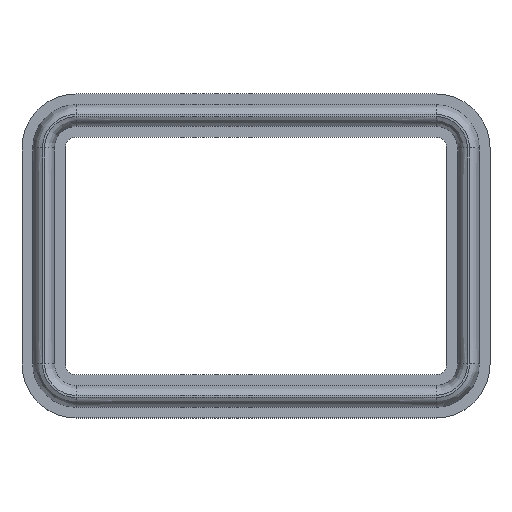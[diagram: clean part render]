
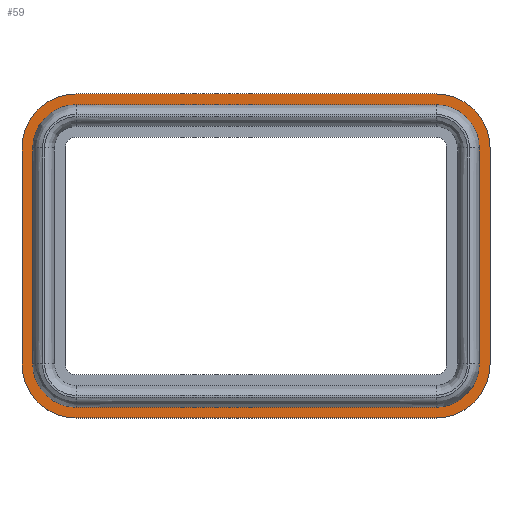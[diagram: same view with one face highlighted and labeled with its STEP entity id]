
A CAD part, top view. The second image highlights one B-rep face of the part: STEP entity #59.
In plain terms, the highlighted planar face has unit normal (0, 0, 1).
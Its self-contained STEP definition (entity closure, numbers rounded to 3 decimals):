
#21 = EDGE_CURVE('',#22,#24,#26,.T.);
#22 = VERTEX_POINT('',#23);
#23 = CARTESIAN_POINT('',(-13.,-6.,0.8));
#24 = VERTEX_POINT('',#25);
#25 = CARTESIAN_POINT('',(-10.,-9.,0.8));
#26 = CIRCLE('',#27,3.);
#27 = AXIS2_PLACEMENT_3D('',#28,#29,#30);
#28 = CARTESIAN_POINT('',(-10.,-6.,0.8));
#29 = DIRECTION('',(0.,0.,1.));
#30 = DIRECTION('',(1.,0.,-0.));
#59 = ADVANCED_FACE('',(#60,#120),#234,.T.);
#60 = FACE_BOUND('',#61,.T.);
#61 = EDGE_LOOP('',(#62,#63,#71,#80,#88,#97,#105,#114));
#62 = ORIENTED_EDGE('',*,*,#21,.T.);
#63 = ORIENTED_EDGE('',*,*,#64,.T.);
#64 = EDGE_CURVE('',#24,#65,#67,.T.);
#65 = VERTEX_POINT('',#66);
#66 = CARTESIAN_POINT('',(10.,-9.,0.8));
#67 = LINE('',#68,#69);
#68 = CARTESIAN_POINT('',(-10.,-9.,0.8));
#69 = VECTOR('',#70,1.);
#70 = DIRECTION('',(1.,0.,-0.));
#71 = ORIENTED_EDGE('',*,*,#72,.T.);
#72 = EDGE_CURVE('',#65,#73,#75,.T.);
#73 = VERTEX_POINT('',#74);
#74 = CARTESIAN_POINT('',(13.,-6.,0.8));
#75 = CIRCLE('',#76,3.);
#76 = AXIS2_PLACEMENT_3D('',#77,#78,#79);
#77 = CARTESIAN_POINT('',(10.,-6.,0.8));
#78 = DIRECTION('',(0.,0.,1.));
#79 = DIRECTION('',(1.,0.,-0.));
#80 = ORIENTED_EDGE('',*,*,#81,.T.);
#81 = EDGE_CURVE('',#73,#82,#84,.T.);
#82 = VERTEX_POINT('',#83);
#83 = CARTESIAN_POINT('',(13.,6.,0.8));
#84 = LINE('',#85,#86);
#85 = CARTESIAN_POINT('',(13.,-6.,0.8));
#86 = VECTOR('',#87,1.);
#87 = DIRECTION('',(-0.,1.,0.));
#88 = ORIENTED_EDGE('',*,*,#89,.T.);
#89 = EDGE_CURVE('',#82,#90,#92,.T.);
#90 = VERTEX_POINT('',#91);
#91 = CARTESIAN_POINT('',(10.,9.,0.8));
#92 = CIRCLE('',#93,3.);
#93 = AXIS2_PLACEMENT_3D('',#94,#95,#96);
#94 = CARTESIAN_POINT('',(10.,6.,0.8));
#95 = DIRECTION('',(0.,0.,1.));
#96 = DIRECTION('',(1.,0.,-0.));
#97 = ORIENTED_EDGE('',*,*,#98,.F.);
#98 = EDGE_CURVE('',#99,#90,#101,.T.);
#99 = VERTEX_POINT('',#100);
#100 = CARTESIAN_POINT('',(-10.,9.,0.8));
#101 = LINE('',#102,#103);
#102 = CARTESIAN_POINT('',(-10.,9.,0.8));
#103 = VECTOR('',#104,1.);
#104 = DIRECTION('',(1.,0.,-0.));
#105 = ORIENTED_EDGE('',*,*,#106,.T.);
#106 = EDGE_CURVE('',#99,#107,#109,.T.);
#107 = VERTEX_POINT('',#108);
#108 = CARTESIAN_POINT('',(-13.,6.,0.8));
#109 = CIRCLE('',#110,3.);
#110 = AXIS2_PLACEMENT_3D('',#111,#112,#113);
#111 = CARTESIAN_POINT('',(-10.,6.,0.8));
#112 = DIRECTION('',(0.,0.,1.));
#113 = DIRECTION('',(1.,0.,-0.));
#114 = ORIENTED_EDGE('',*,*,#115,.F.);
#115 = EDGE_CURVE('',#22,#107,#116,.T.);
#116 = LINE('',#117,#118);
#117 = CARTESIAN_POINT('',(-13.,-6.,0.8));
#118 = VECTOR('',#119,1.);
#119 = DIRECTION('',(-0.,1.,0.));
#120 = FACE_BOUND('',#121,.T.);
#121 = EDGE_LOOP('',(#122,#138,#152,#166,#180,#194,#208,#222));
#122 = ORIENTED_EDGE('',*,*,#123,.F.);
#123 = EDGE_CURVE('',#124,#126,#128,.T.);
#124 = VERTEX_POINT('',#125);
#125 = CARTESIAN_POINT('',(10.,-8.4,0.8));
#126 = VERTEX_POINT('',#127);
#127 = CARTESIAN_POINT('',(12.4,-6.,0.8));
#128 = B_SPLINE_CURVE_WITH_KNOTS('',8,(#129,#130,#131,#132,#133,#134,
    #135,#136,#137),.UNSPECIFIED.,.F.,.F.,(9,9),(0.,1.),
  .PIECEWISE_BEZIER_KNOTS.);
#129 = CARTESIAN_POINT('',(10.,-8.4,0.8));
#130 = CARTESIAN_POINT('',(10.471,-8.4,0.8));
#131 = CARTESIAN_POINT('',(10.942,-8.294,0.8));
#132 = CARTESIAN_POINT('',(11.386,-8.083,0.8));
#133 = CARTESIAN_POINT('',(11.774,-7.774,0.8));
#134 = CARTESIAN_POINT('',(12.083,-7.386,0.8));
#135 = CARTESIAN_POINT('',(12.294,-6.942,0.8));
#136 = CARTESIAN_POINT('',(12.4,-6.471,0.8));
#137 = CARTESIAN_POINT('',(12.4,-6.,0.8));
#138 = ORIENTED_EDGE('',*,*,#139,.F.);
#139 = EDGE_CURVE('',#140,#124,#142,.T.);
#140 = VERTEX_POINT('',#141);
#141 = CARTESIAN_POINT('',(-10.,-8.4,0.8));
#142 = B_SPLINE_CURVE_WITH_KNOTS('',8,(#143,#144,#145,#146,#147,#148,
    #149,#150,#151),.UNSPECIFIED.,.F.,.F.,(9,9),(7.,8.),
  .PIECEWISE_BEZIER_KNOTS.);
#143 = CARTESIAN_POINT('',(-10.,-8.4,0.8));
#144 = CARTESIAN_POINT('',(-7.5,-8.4,0.8));
#145 = CARTESIAN_POINT('',(-5.,-8.4,0.8));
#146 = CARTESIAN_POINT('',(-2.5,-8.4,0.8));
#147 = CARTESIAN_POINT('',(0.,-8.4,0.8));
#148 = CARTESIAN_POINT('',(2.5,-8.4,0.8));
#149 = CARTESIAN_POINT('',(5.,-8.4,0.8));
#150 = CARTESIAN_POINT('',(7.5,-8.4,0.8));
#151 = CARTESIAN_POINT('',(10.,-8.4,0.8));
#152 = ORIENTED_EDGE('',*,*,#153,.F.);
#153 = EDGE_CURVE('',#154,#140,#156,.T.);
#154 = VERTEX_POINT('',#155);
#155 = CARTESIAN_POINT('',(-12.4,-6.,0.8));
#156 = B_SPLINE_CURVE_WITH_KNOTS('',8,(#157,#158,#159,#160,#161,#162,
    #163,#164,#165),.UNSPECIFIED.,.F.,.F.,(9,9),(6.,7.),
  .PIECEWISE_BEZIER_KNOTS.);
#157 = CARTESIAN_POINT('',(-12.4,-6.,0.8));
#158 = CARTESIAN_POINT('',(-12.4,-6.471,0.8));
#159 = CARTESIAN_POINT('',(-12.294,-6.942,0.8));
#160 = CARTESIAN_POINT('',(-12.083,-7.386,0.8));
#161 = CARTESIAN_POINT('',(-11.774,-7.774,0.8));
#162 = CARTESIAN_POINT('',(-11.386,-8.083,0.8));
#163 = CARTESIAN_POINT('',(-10.942,-8.294,0.8));
#164 = CARTESIAN_POINT('',(-10.471,-8.4,0.8));
#165 = CARTESIAN_POINT('',(-10.,-8.4,0.8));
#166 = ORIENTED_EDGE('',*,*,#167,.F.);
#167 = EDGE_CURVE('',#168,#154,#170,.T.);
#168 = VERTEX_POINT('',#169);
#169 = CARTESIAN_POINT('',(-12.4,6.,0.8));
#170 = B_SPLINE_CURVE_WITH_KNOTS('',8,(#171,#172,#173,#174,#175,#176,
    #177,#178,#179),.UNSPECIFIED.,.F.,.F.,(9,9),(5.,6.),
  .PIECEWISE_BEZIER_KNOTS.);
#171 = CARTESIAN_POINT('',(-12.4,6.,0.8));
#172 = CARTESIAN_POINT('',(-12.4,4.5,0.8));
#173 = CARTESIAN_POINT('',(-12.4,3.,0.8));
#174 = CARTESIAN_POINT('',(-12.4,1.5,0.8));
#175 = CARTESIAN_POINT('',(-12.4,0.,0.8));
#176 = CARTESIAN_POINT('',(-12.4,-1.5,0.8));
#177 = CARTESIAN_POINT('',(-12.4,-3.,0.8));
#178 = CARTESIAN_POINT('',(-12.4,-4.5,0.8));
#179 = CARTESIAN_POINT('',(-12.4,-6.,0.8));
#180 = ORIENTED_EDGE('',*,*,#181,.F.);
#181 = EDGE_CURVE('',#182,#168,#184,.T.);
#182 = VERTEX_POINT('',#183);
#183 = CARTESIAN_POINT('',(-10.,8.4,0.8));
#184 = B_SPLINE_CURVE_WITH_KNOTS('',8,(#185,#186,#187,#188,#189,#190,
    #191,#192,#193),.UNSPECIFIED.,.F.,.F.,(9,9),(4.,5.),
  .PIECEWISE_BEZIER_KNOTS.);
#185 = CARTESIAN_POINT('',(-10.,8.4,0.8));
#186 = CARTESIAN_POINT('',(-10.471,8.4,0.8));
#187 = CARTESIAN_POINT('',(-10.942,8.294,0.8));
#188 = CARTESIAN_POINT('',(-11.386,8.083,0.8));
#189 = CARTESIAN_POINT('',(-11.774,7.774,0.8));
#190 = CARTESIAN_POINT('',(-12.083,7.386,0.8));
#191 = CARTESIAN_POINT('',(-12.294,6.942,0.8));
#192 = CARTESIAN_POINT('',(-12.4,6.471,0.8));
#193 = CARTESIAN_POINT('',(-12.4,6.,0.8));
#194 = ORIENTED_EDGE('',*,*,#195,.F.);
#195 = EDGE_CURVE('',#196,#182,#198,.T.);
#196 = VERTEX_POINT('',#197);
#197 = CARTESIAN_POINT('',(10.,8.4,0.8));
#198 = B_SPLINE_CURVE_WITH_KNOTS('',8,(#199,#200,#201,#202,#203,#204,
    #205,#206,#207),.UNSPECIFIED.,.F.,.F.,(9,9),(3.,4.),
  .PIECEWISE_BEZIER_KNOTS.);
#199 = CARTESIAN_POINT('',(10.,8.4,0.8));
#200 = CARTESIAN_POINT('',(7.5,8.4,0.8));
#201 = CARTESIAN_POINT('',(5.,8.4,0.8));
#202 = CARTESIAN_POINT('',(2.5,8.4,0.8));
#203 = CARTESIAN_POINT('',(0.,8.4,0.8));
#204 = CARTESIAN_POINT('',(-2.5,8.4,0.8));
#205 = CARTESIAN_POINT('',(-5.,8.4,0.8));
#206 = CARTESIAN_POINT('',(-7.5,8.4,0.8));
#207 = CARTESIAN_POINT('',(-10.,8.4,0.8));
#208 = ORIENTED_EDGE('',*,*,#209,.F.);
#209 = EDGE_CURVE('',#210,#196,#212,.T.);
#210 = VERTEX_POINT('',#211);
#211 = CARTESIAN_POINT('',(12.4,6.,0.8));
#212 = B_SPLINE_CURVE_WITH_KNOTS('',8,(#213,#214,#215,#216,#217,#218,
    #219,#220,#221),.UNSPECIFIED.,.F.,.F.,(9,9),(2.,3.),
  .PIECEWISE_BEZIER_KNOTS.);
#213 = CARTESIAN_POINT('',(12.4,6.,0.8));
#214 = CARTESIAN_POINT('',(12.4,6.471,0.8));
#215 = CARTESIAN_POINT('',(12.294,6.942,0.8));
#216 = CARTESIAN_POINT('',(12.083,7.386,0.8));
#217 = CARTESIAN_POINT('',(11.774,7.774,0.8));
#218 = CARTESIAN_POINT('',(11.386,8.083,0.8));
#219 = CARTESIAN_POINT('',(10.942,8.294,0.8));
#220 = CARTESIAN_POINT('',(10.471,8.4,0.8));
#221 = CARTESIAN_POINT('',(10.,8.4,0.8));
#222 = ORIENTED_EDGE('',*,*,#223,.F.);
#223 = EDGE_CURVE('',#126,#210,#224,.T.);
#224 = B_SPLINE_CURVE_WITH_KNOTS('',8,(#225,#226,#227,#228,#229,#230,
    #231,#232,#233),.UNSPECIFIED.,.F.,.F.,(9,9),(1.,2.),
  .PIECEWISE_BEZIER_KNOTS.);
#225 = CARTESIAN_POINT('',(12.4,-6.,0.8));
#226 = CARTESIAN_POINT('',(12.4,-4.5,0.8));
#227 = CARTESIAN_POINT('',(12.4,-3.,0.8));
#228 = CARTESIAN_POINT('',(12.4,-1.5,0.8));
#229 = CARTESIAN_POINT('',(12.4,0.,0.8));
#230 = CARTESIAN_POINT('',(12.4,1.5,0.8));
#231 = CARTESIAN_POINT('',(12.4,3.,0.8));
#232 = CARTESIAN_POINT('',(12.4,4.5,0.8));
#233 = CARTESIAN_POINT('',(12.4,6.,0.8));
#234 = PLANE('',#235);
#235 = AXIS2_PLACEMENT_3D('',#236,#237,#238);
#236 = CARTESIAN_POINT('',(0.,0.,0.8));
#237 = DIRECTION('',(0.,0.,1.));
#238 = DIRECTION('',(1.,0.,-0.));
